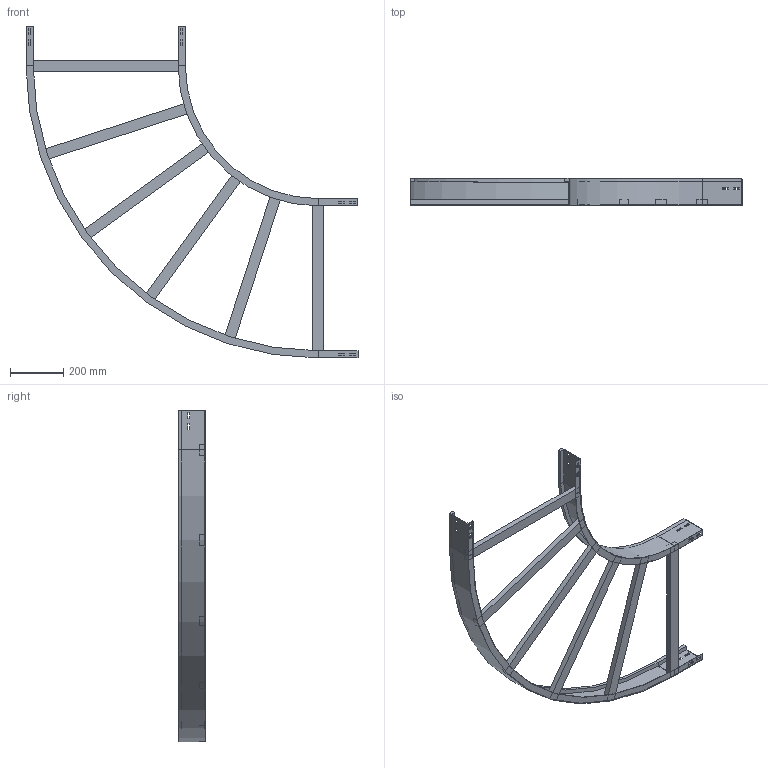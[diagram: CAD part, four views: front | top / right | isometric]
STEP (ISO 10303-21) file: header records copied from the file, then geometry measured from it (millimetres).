
FILE_DESCRIPTION (( 'STEP AP214' ), '1' );
FILE_NAME ('10B5D600.step', '2025-02-21T15:22:28', ( '' ), ( '' ), 'SwSTEP 2.0', 'SolidWorks 2023', '' );
FILE_SCHEMA (( 'AUTOMOTIVE_DESIGN' ));
Length unit declared in the file: millimetre
Products named in the file (4): A2_LONGH.INTERNO 90°_H100_R500; 10B5D600; A2_LONGH.ESTERNO 90°_H100_R500+600; TRAVERSINO_600
Assembly tree (8 placements, depth 2):
  10B5D600
    A2_LONGH.INTERNO 90°_H100_R500
    A2_LONGH.ESTERNO 90°_H100_R500+600
    TRAVERSINO_600  x6
Bounding box: 1250 x 100 x 1250 mm (x, y, z)
Volume: 4267699.2 mm3; surface area: 1331508.4 mm2
Topology: 8 solids, 8 shells, 152 faces, 376 edges, 240 vertices
Faces by surface type: plane 144, cylinder 8
Entity records: 3845 total; most frequent: CARTESIAN_POINT 649, ORIENTED_EDGE 632, DIRECTION 598, EDGE_CURVE 316, LINE 300, VECTOR 300, VERTEX_POINT 200, EDGE_LOOP 154
